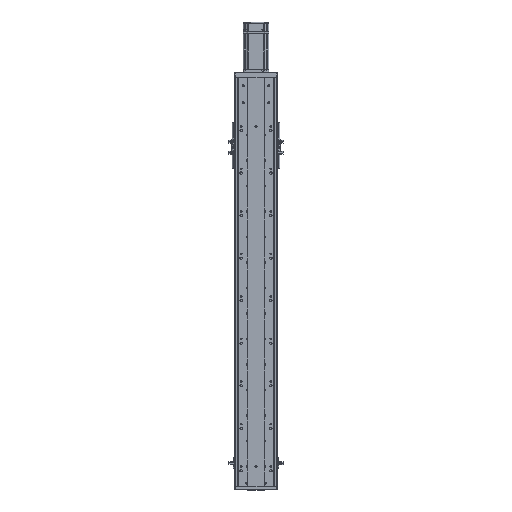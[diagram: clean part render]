
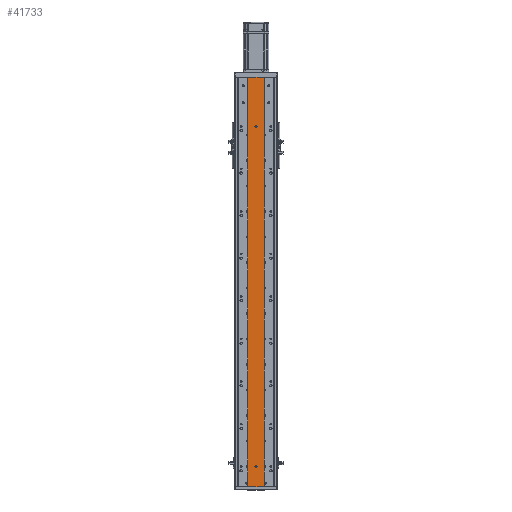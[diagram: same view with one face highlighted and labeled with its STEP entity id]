
A CAD part, top view. The second image highlights one B-rep face of the part: STEP entity #41733.
In plain terms, the highlighted planar face has unit normal (0, 0, 1).
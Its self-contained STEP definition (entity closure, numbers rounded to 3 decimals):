
#156 = VERTEX_POINT ( 'NONE', #15357 ) ;
#158 = VERTEX_POINT ( 'NONE', #15366 ) ;
#171 = VERTEX_POINT ( 'NONE', #15392 ) ;
#173 = VERTEX_POINT ( 'NONE', #15394 ) ;
#654 = CARTESIAN_POINT ( 'NONE',  ( -10645.079, 0., -17040.86 ) ) ;
#656 = DIRECTION ( 'NONE',  ( 1., 0., 0. ) ) ;
#680 = DIRECTION ( 'NONE',  ( 0., -1., 0. ) ) ;
#691 = DIRECTION ( 'NONE',  ( 0., 0., -1. ) ) ;
#693 = DIRECTION ( 'NONE',  ( -1., 0., 0. ) ) ;
#700 = CARTESIAN_POINT ( 'NONE',  ( -10607.079, 962., -17040.86 ) ) ;
#707 = CARTESIAN_POINT ( 'NONE',  ( -10626.079, 47., -17040.86 ) ) ;
#9081 = PLANE ( 'NONE',  #37987 ) ;
#9084 = CARTESIAN_POINT ( 'NONE',  ( -10645.079, 962., -17040.86 ) ) ;
#9086 = DIRECTION ( 'NONE',  ( 0., 0., -1. ) ) ;
#9095 = DIRECTION ( 'NONE',  ( -1., 0., 0. ) ) ;
#12636 = CARTESIAN_POINT ( 'NONE',  ( -10626.079, 847., -17040.86 ) ) ;
#12646 = CARTESIAN_POINT ( 'NONE',  ( -10645.079, 962., -17040.86 ) ) ;
#12649 = CARTESIAN_POINT ( 'NONE',  ( -10645.079, 962., -17040.86 ) ) ;
#12652 = DIRECTION ( 'NONE',  ( 0., 0., -1. ) ) ;
#12663 = DIRECTION ( 'NONE',  ( 1., 0., 0. ) ) ;
#12676 = DIRECTION ( 'NONE',  ( 0., -1., 0. ) ) ;
#12678 = DIRECTION ( 'NONE',  ( -1., 0., 0. ) ) ;
#15357 = CARTESIAN_POINT ( 'NONE',  ( -10623.579, 847., -17040.86 ) ) ;
#15366 = CARTESIAN_POINT ( 'NONE',  ( -10628.579, 47., -17040.86 ) ) ;
#15392 = CARTESIAN_POINT ( 'NONE',  ( -10623.579, 47., -17040.86 ) ) ;
#15394 = CARTESIAN_POINT ( 'NONE',  ( -10628.579, 847., -17040.86 ) ) ;
#17638 = EDGE_LOOP ( 'NONE', ( #25602, #25591 ) ) ;
#17676 = EDGE_LOOP ( 'NONE', ( #25619, #25620, #25592, #25603 ) ) ;
#17700 = EDGE_LOOP ( 'NONE', ( #25639, #25605 ) ) ;
#20302 = FACE_BOUND ( 'NONE', #17638, .T. ) ;
#20306 = FACE_OUTER_BOUND ( 'NONE', #17676, .T. ) ;
#20338 = FACE_BOUND ( 'NONE', #17700, .T. ) ;
#21859 = EDGE_CURVE ( 'NONE', #171, #158, #29215, .T. ) ;
#21878 = EDGE_CURVE ( 'NONE', #156, #173, #29201, .T. ) ;
#22235 = EDGE_CURVE ( 'NONE', #23956, #23926, #30419, .T. ) ;
#22240 = EDGE_CURVE ( 'NONE', #173, #156, #30424, .T. ) ;
#22244 = EDGE_CURVE ( 'NONE', #23956, #23967, #30375, .T. ) ;
#22278 = EDGE_CURVE ( 'NONE', #23926, #23915, #30550, .T. ) ;
#22288 = EDGE_CURVE ( 'NONE', #158, #171, #30513, .T. ) ;
#22294 = EDGE_CURVE ( 'NONE', #23967, #23915, #30542, .T. ) ;
#23915 = VERTEX_POINT ( 'NONE', #33780 ) ;
#23926 = VERTEX_POINT ( 'NONE', #33796 ) ;
#23956 = VERTEX_POINT ( 'NONE', #33870 ) ;
#23967 = VERTEX_POINT ( 'NONE', #33841 ) ;
#25591 = ORIENTED_EDGE ( 'NONE', *, *, #22240, .T. ) ;
#25592 = ORIENTED_EDGE ( 'NONE', *, *, #22244, .F. ) ;
#25602 = ORIENTED_EDGE ( 'NONE', *, *, #21878, .T. ) ;
#25603 = ORIENTED_EDGE ( 'NONE', *, *, #22235, .T. ) ;
#25605 = ORIENTED_EDGE ( 'NONE', *, *, #22288, .T. ) ;
#25619 = ORIENTED_EDGE ( 'NONE', *, *, #22278, .T. ) ;
#25620 = ORIENTED_EDGE ( 'NONE', *, *, #22294, .F. ) ;
#25639 = ORIENTED_EDGE ( 'NONE', *, *, #21859, .T. ) ;
#29201 = CIRCLE ( 'NONE', #31634, 2.5 ) ;
#29215 = CIRCLE ( 'NONE', #31654, 2.5 ) ;
#30375 = LINE ( 'NONE', #12649, #30377 ) ;
#30377 = VECTOR ( 'NONE', #12663, 1000. ) ;
#30419 = LINE ( 'NONE', #12646, #30455 ) ;
#30424 = CIRCLE ( 'NONE', #31838, 2.5 ) ;
#30455 = VECTOR ( 'NONE', #12676, 1000. ) ;
#30513 = CIRCLE ( 'NONE', #31897, 2.5 ) ;
#30516 = VECTOR ( 'NONE', #680, 1000. ) ;
#30542 = LINE ( 'NONE', #700, #30516 ) ;
#30544 = VECTOR ( 'NONE', #656, 1000. ) ;
#30550 = LINE ( 'NONE', #654, #30544 ) ;
#31634 = AXIS2_PLACEMENT_3D ( 'NONE', #47938, #47921, #47927 ) ;
#31654 = AXIS2_PLACEMENT_3D ( 'NONE', #47916, #47885, #47899 ) ;
#31838 = AXIS2_PLACEMENT_3D ( 'NONE', #12636, #12652, #12678 ) ;
#31897 = AXIS2_PLACEMENT_3D ( 'NONE', #707, #691, #693 ) ;
#33780 = CARTESIAN_POINT ( 'NONE',  ( -10607.079, 0., -17040.86 ) ) ;
#33796 = CARTESIAN_POINT ( 'NONE',  ( -10645.079, 0., -17040.86 ) ) ;
#33841 = CARTESIAN_POINT ( 'NONE',  ( -10607.079, 962., -17040.86 ) ) ;
#33870 = CARTESIAN_POINT ( 'NONE',  ( -10645.079, 962., -17040.86 ) ) ;
#37987 = AXIS2_PLACEMENT_3D ( 'NONE', #9084, #9086, #9095 ) ;
#41733 = ADVANCED_FACE ( 'NONE', ( #20302, #20338, #20306 ), #9081, .F. ) ;
#47885 = DIRECTION ( 'NONE',  ( 0., 0., -1. ) ) ;
#47899 = DIRECTION ( 'NONE',  ( -1., 0., 0. ) ) ;
#47916 = CARTESIAN_POINT ( 'NONE',  ( -10626.079, 47., -17040.86 ) ) ;
#47921 = DIRECTION ( 'NONE',  ( 0., 0., -1. ) ) ;
#47927 = DIRECTION ( 'NONE',  ( -1., 0., 0. ) ) ;
#47938 = CARTESIAN_POINT ( 'NONE',  ( -10626.079, 847., -17040.86 ) ) ;
